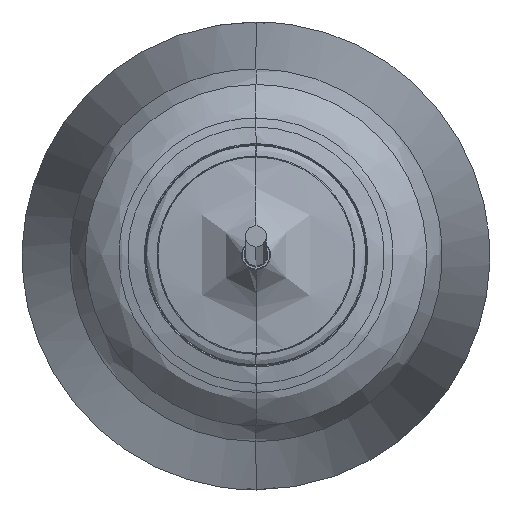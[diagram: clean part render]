
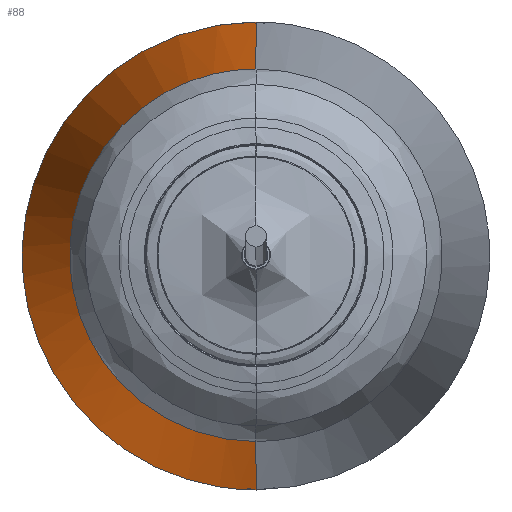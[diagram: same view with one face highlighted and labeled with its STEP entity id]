
A CAD part, top view. The second image highlights one B-rep face of the part: STEP entity #88.
In plain terms, the highlighted free-form (B-spline) face has degree [2, 1] with [9, 2] control points.
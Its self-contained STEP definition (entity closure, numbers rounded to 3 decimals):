
#88=ADVANCED_FACE('',(#162),#1001,.T.);
#162=FACE_OUTER_BOUND('',#238,.T.);
#238=EDGE_LOOP('',(#383,#384,#385,#386));
#383=ORIENTED_EDGE('',*,*,#598,.F.);
#384=ORIENTED_EDGE('',*,*,#622,.T.);
#385=ORIENTED_EDGE('',*,*,#597,.F.);
#386=ORIENTED_EDGE('',*,*,#633,.T.);
#597=EDGE_CURVE('',#898,#897,#741,.T.);
#598=EDGE_CURVE('',#900,#899,#742,.T.);
#622=EDGE_CURVE('',#900,#897,#781,.T.);
#633=EDGE_CURVE('',#898,#899,#790,.T.);
#741=B_SPLINE_CURVE_WITH_KNOTS('',1,(#1526,#1527),.UNSPECIFIED.,.F.,.F.,
(2,2),(7.283,8.283),.UNSPECIFIED.);
#742=B_SPLINE_CURVE_WITH_KNOTS('',1,(#1528,#1529),.UNSPECIFIED.,.F.,.F.,
(2,2),(3.142,4.142),.UNSPECIFIED.);
#781=(
BOUNDED_CURVE()
B_SPLINE_CURVE(2,(#1623,#1624,#1625,#1626,#1627),.UNSPECIFIED.,.F.,.F.)
B_SPLINE_CURVE_WITH_KNOTS((3,2,3),(-3.65,-2.079,-0.508),
 .UNSPECIFIED.)
CURVE()
GEOMETRIC_REPRESENTATION_ITEM()
RATIONAL_B_SPLINE_CURVE((1.,0.707,1.,0.707,1.))
REPRESENTATION_ITEM('')
);
#790=(
BOUNDED_CURVE()
B_SPLINE_CURVE(2,(#1672,#1673,#1674,#1675,#1676),.UNSPECIFIED.,.F.,.F.)
B_SPLINE_CURVE_WITH_KNOTS((3,2,3),(-9.669,-8.098,
-6.528),.UNSPECIFIED.)
CURVE()
GEOMETRIC_REPRESENTATION_ITEM()
RATIONAL_B_SPLINE_CURVE((1.,0.707,1.,0.707,1.))
REPRESENTATION_ITEM('')
);
#897=VERTEX_POINT('',#1496);
#898=VERTEX_POINT('',#1497);
#899=VERTEX_POINT('',#1498);
#900=VERTEX_POINT('',#1499);
#1001=(
BOUNDED_SURFACE()
B_SPLINE_SURFACE(2,1,((#1458,#1459),(#1460,#1461),(#1462,#1463),(#1464,
#1465),(#1466,#1467),(#1468,#1469),(#1470,#1471),(#1472,#1473),(#1474,#1475)),
 .UNSPECIFIED.,.F.,.F.,.F.)
B_SPLINE_SURFACE_WITH_KNOTS((3,2,2,2,3),(2,2),(2.749,3.632,
4.516,5.4,6.283),(0.,1.),
 .UNSPECIFIED.)
GEOMETRIC_REPRESENTATION_ITEM()
RATIONAL_B_SPLINE_SURFACE(((1.,1.),(0.904,0.904),
(1.,1.),(0.904,0.904),(1.,1.),(0.904,
0.904),(1.,1.),(0.904,0.904),(1.,1.)))
REPRESENTATION_ITEM('')
SURFACE()
);
#1458=CARTESIAN_POINT('',(19.81,-47.826,119.));
#1459=CARTESIAN_POINT('',(24.874,-60.052,11.219));
#1460=CARTESIAN_POINT('',(-2.81,-57.195,119.));
#1461=CARTESIAN_POINT('',(-3.528,-71.817,11.219));
#1462=CARTESIAN_POINT('',(-24.402,-45.654,119.));
#1463=CARTESIAN_POINT('',(-30.641,-57.325,11.219));
#1464=CARTESIAN_POINT('',(-45.995,-34.112,119.));
#1465=CARTESIAN_POINT('',(-57.753,-42.833,11.219));
#1466=CARTESIAN_POINT('',(-50.771,-10.099,119.));
#1467=CARTESIAN_POINT('',(-63.751,-12.681,11.219));
#1468=CARTESIAN_POINT('',(-55.548,13.914,119.));
#1469=CARTESIAN_POINT('',(-69.749,17.471,11.219));
#1470=CARTESIAN_POINT('',(-40.016,32.84,119.));
#1471=CARTESIAN_POINT('',(-50.246,41.236,11.219));
#1472=CARTESIAN_POINT('',(-24.484,51.766,119.));
#1473=CARTESIAN_POINT('',(-30.743,65.,11.219));
#1474=CARTESIAN_POINT('',(0.,51.766,119.));
#1475=CARTESIAN_POINT('',(0.,65.,11.219));
#1496=CARTESIAN_POINT('',(0.,51.766,119.));
#1497=CARTESIAN_POINT('',(0.,65.,11.219));
#1498=CARTESIAN_POINT('',(0.,-65.,11.219));
#1499=CARTESIAN_POINT('',(0.,-51.766,119.));
#1526=CARTESIAN_POINT('',(0.,65.,11.219));
#1527=CARTESIAN_POINT('',(0.,51.766,119.));
#1528=CARTESIAN_POINT('',(0.,-51.766,119.));
#1529=CARTESIAN_POINT('',(0.,-65.,11.219));
#1623=CARTESIAN_POINT('',(0.,-51.766,119.));
#1624=CARTESIAN_POINT('',(-51.766,-51.766,119.));
#1625=CARTESIAN_POINT('',(-51.766,0.,119.));
#1626=CARTESIAN_POINT('',(-51.766,51.766,119.));
#1627=CARTESIAN_POINT('',(0.,51.766,119.));
#1672=CARTESIAN_POINT('',(0.,65.,11.219));
#1673=CARTESIAN_POINT('',(-65.,65.,11.219));
#1674=CARTESIAN_POINT('',(-65.,0.,11.219));
#1675=CARTESIAN_POINT('',(-65.,-65.,11.219));
#1676=CARTESIAN_POINT('',(0.,-65.,11.219));
